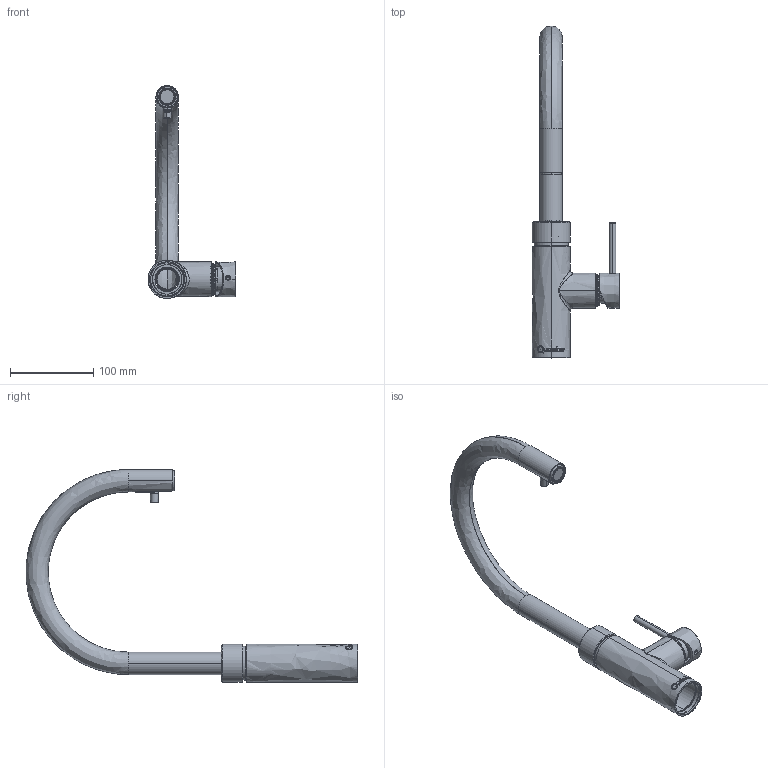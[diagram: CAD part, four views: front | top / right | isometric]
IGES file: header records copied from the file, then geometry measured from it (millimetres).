
Start section: SolidWorks IGES file using analytic representation for surfaces
Global section: file name: C:\SEPDM\Quooker_10\Projecten\PRJ_000015 - 3D Files kranen en ketels\Files IGS\Kranen\Flex Round.IGS; native system: SolidWorks 2024; preprocessor: SolidWorks 2024; author: r.peters; date: 250114.085354; units: millimetre
Bounding box: 105.85 x 399.65 x 256.5 mm (x, y, z)
Surface area: 165021 mm2 (no closed solid volume)
Topology: 0 solids, 0 shells, 876 faces, 11095 edges, 11056 vertices
Faces by surface type: bspline 478, revolution 398
